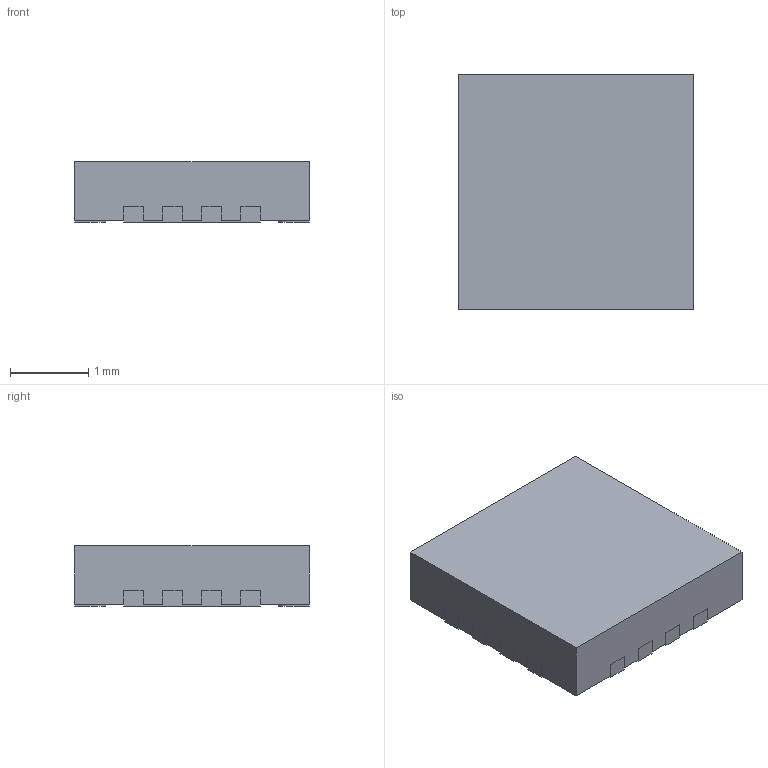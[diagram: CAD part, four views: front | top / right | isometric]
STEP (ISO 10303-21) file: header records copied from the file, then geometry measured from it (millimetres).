
FILE_DESCRIPTION (( 'STEP AP214' ), '1' );
FILE_NAME ('ES16.STEP', '2018-09-27T18:58:12', ( '' ), ( '' ), 'SwSTEP 2.0', 'SolidWorks 2017', '' );
FILE_SCHEMA (( 'AUTOMOTIVE_DESIGN' ));
Length unit declared in the file: millimetre
Products named in the file (1): ES16
Bounding box: 3 x 3 x 0.78 mm (x, y, z)
Volume: 6.9 mm3; surface area: 27.6 mm2
Topology: 1 solids, 1 shells, 101 faces, 294 edges, 196 vertices
Faces by surface type: plane 75, cylinder 26
Entity records: 3420 total; most frequent: CARTESIAN_POINT 592, ORIENTED_EDGE 588, DIRECTION 550, EDGE_CURVE 294, LINE 242, VECTOR 242, VERTEX_POINT 196, AXIS2_PLACEMENT_3D 154
